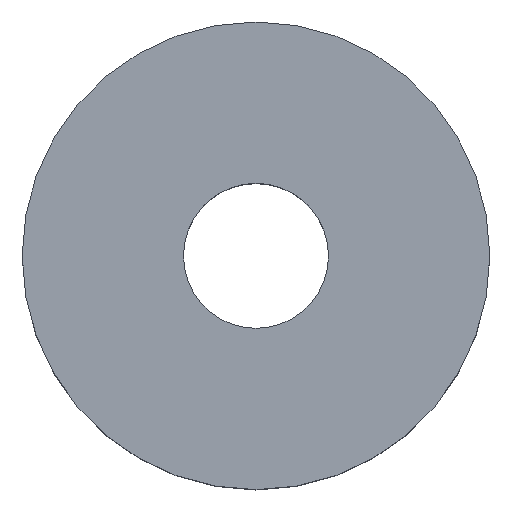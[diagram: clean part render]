
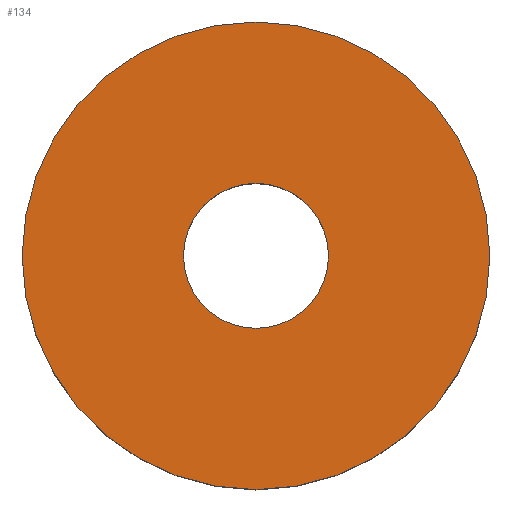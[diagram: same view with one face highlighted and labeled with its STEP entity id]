
A CAD part, top view. The second image highlights one B-rep face of the part: STEP entity #134.
In plain terms, the highlighted planar face has unit normal (0, 0, 1).
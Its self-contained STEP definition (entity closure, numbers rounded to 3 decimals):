
#29=CARTESIAN_POINT('',(0.,0.,4.));
#30=DIRECTION('',(0.,0.,1.));
#31=DIRECTION('',(1.,0.,0.));
#32=AXIS2_PLACEMENT_3D('',#29,#30,#31);
#34=CARTESIAN_POINT('',(0.,0.,4.));
#35=DIRECTION('',(0.,0.,1.));
#36=DIRECTION('',(-1.,0.,0.));
#37=AXIS2_PLACEMENT_3D('',#34,#35,#36);
#39=CARTESIAN_POINT('',(0.,0.,4.));
#40=DIRECTION('',(0.,0.,-1.));
#41=DIRECTION('',(1.,0.,0.));
#42=AXIS2_PLACEMENT_3D('',#39,#40,#41);
#44=CARTESIAN_POINT('',(0.,0.,4.));
#45=DIRECTION('',(0.,0.,-1.));
#46=DIRECTION('',(-1.,0.,0.));
#47=AXIS2_PLACEMENT_3D('',#44,#45,#46);
#65=CARTESIAN_POINT('',(10.,0.,4.));
#66=CARTESIAN_POINT('',(-10.,0.,4.));
#67=VERTEX_POINT('',#65);
#68=VERTEX_POINT('',#66);
#69=CARTESIAN_POINT('',(3.1,0.,4.));
#70=CARTESIAN_POINT('',(-3.1,0.,4.));
#71=VERTEX_POINT('',#69);
#72=VERTEX_POINT('',#70);
#119=CARTESIAN_POINT('',(0.,0.,4.));
#120=DIRECTION('',(0.,0.,1.));
#121=DIRECTION('',(1.,0.,0.));
#122=AXIS2_PLACEMENT_3D('',#119,#120,#121);
#123=PLANE('',#122);
#124=ORIENTED_EDGE('',*,*,#99,.F.);
#125=ORIENTED_EDGE('',*,*,#113,.F.);
#126=EDGE_LOOP('',(#124,#125));
#127=FACE_OUTER_BOUND('',#126,.F.);
#129=ORIENTED_EDGE('',*,*,#128,.F.);
#131=ORIENTED_EDGE('',*,*,#130,.F.);
#132=EDGE_LOOP('',(#129,#131));
#133=FACE_BOUND('',#132,.F.);
#134=ADVANCED_FACE('',(#127,#133),#123,.T.);
#33=CIRCLE('',#32,10.);
#38=CIRCLE('',#37,10.);
#43=CIRCLE('',#42,3.1);
#48=CIRCLE('',#47,3.1);
#99=EDGE_CURVE('',#67,#68,#33,.T.);
#113=EDGE_CURVE('',#68,#67,#38,.T.);
#128=EDGE_CURVE('',#71,#72,#43,.T.);
#130=EDGE_CURVE('',#72,#71,#48,.T.);
